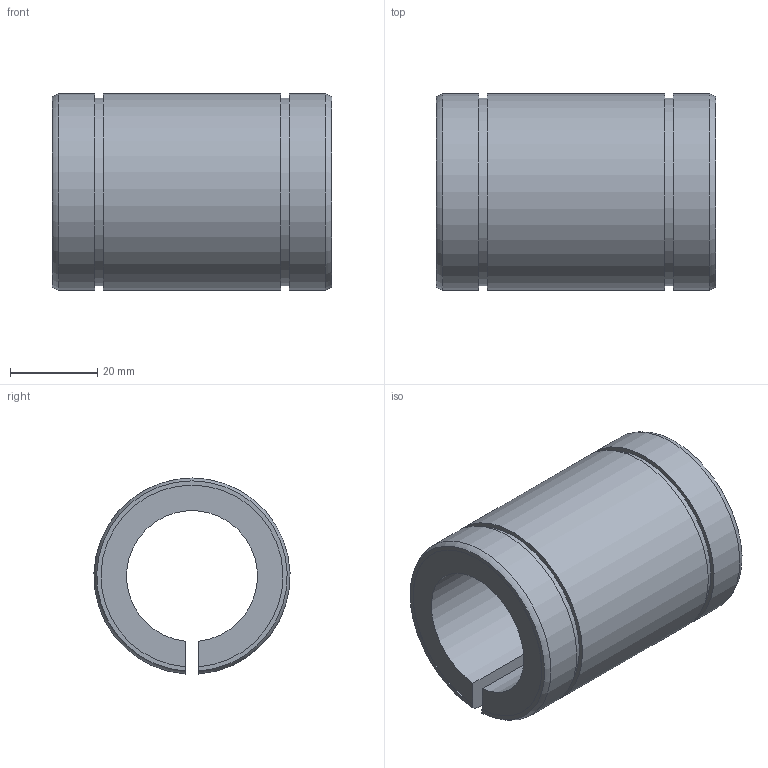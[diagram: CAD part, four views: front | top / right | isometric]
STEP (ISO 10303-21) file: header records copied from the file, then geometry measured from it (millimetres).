
FILE_DESCRIPTION((''),'2;1');
FILE_NAME('D:\製品 (図面)\カタログ用3D\リニアベアリング関連\STEP形式\L-ADJ\L30-ADJ.stp','2010-06-02T17:37:36',('Tsuchiya'),(''),'Autodesk Inventor 10','Autodesk Inventor 10','');
FILE_SCHEMA(('AUTOMOTIVE_DESIGN { 1 0 10303 214 1 1 1 1 }'));
Length unit declared in the file: millimetre
Products named in the file (1): L30-ADJ
Bounding box: 64 x 44.98 x 44.95 mm (x, y, z)
Volume: 54369.7 mm3; surface area: 17749.9 mm2
Topology: 1 solids, 1 shells, 20 faces, 54 edges, 36 vertices
Faces by surface type: plane 10, cylinder 8, torus 2
Entity records: 693 total; most frequent: CARTESIAN_POINT 153, DIRECTION 110, ORIENTED_EDGE 108, EDGE_CURVE 54, AXIS2_PLACEMENT_3D 39, VERTEX_POINT 36, VECTOR 32, LINE 32
